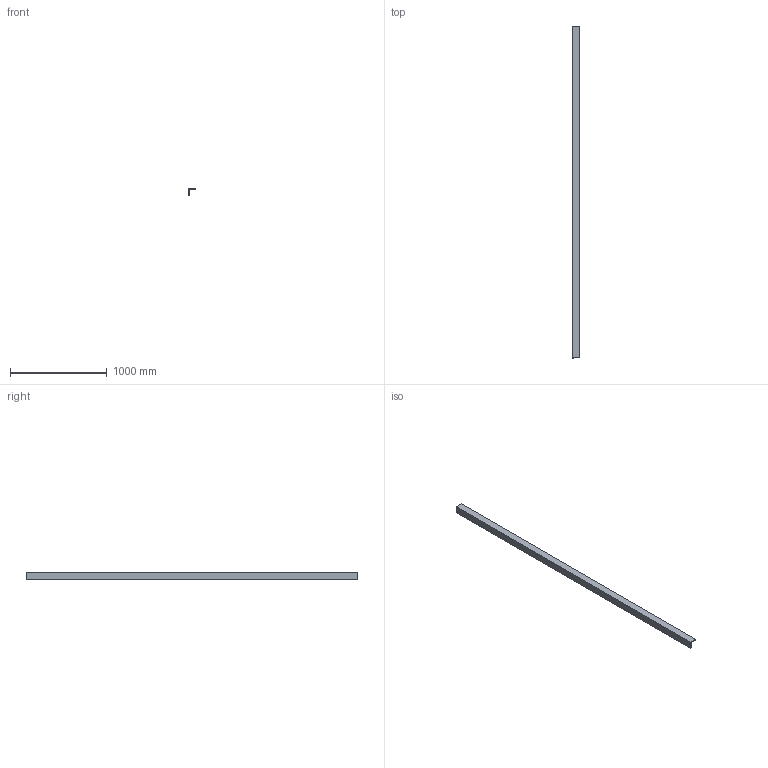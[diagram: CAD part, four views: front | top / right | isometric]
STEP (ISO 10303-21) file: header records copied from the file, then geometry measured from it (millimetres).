
FILE_DESCRIPTION(('Open CASCADE Model'),'2;1');
FILE_NAME('Open CASCADE Shape Model','2026-09-19T12:55:22',('Author'),( 'Open CASCADE'),'Open CASCADE STEP processor 7.9','Open CASCADE 7.9' ,'Unknown');
FILE_SCHEMA(('AUTOMOTIVE_DESIGN { 1 0 10303 214 1 1 1 1 }'));
Length unit declared in the file: millimetre
Products named in the file (1): Open CASCADE STEP translator 7.9 397
Bounding box: 76.2 x 3430 x 76.2 mm (x, y, z)
Volume: 4667833.4 mm3; surface area: 1048185.8 mm2
Topology: 1 solids, 1 shells, 8 faces, 18 edges, 12 vertices
Faces by surface type: plane 8
Entity records: 466 total; most frequent: CARTESIAN_POINT 75, DIRECTION 72, LINE 54, VECTOR 54, ORIENTED_EDGE 36, PCURVE 36, DEFINITIONAL_REPRESENTATION 36, EDGE_CURVE 18
